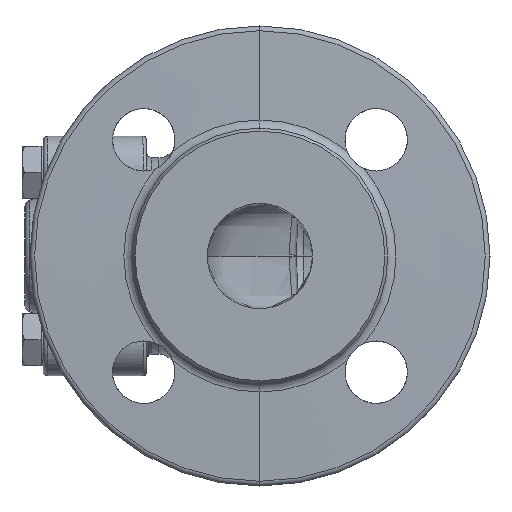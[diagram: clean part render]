
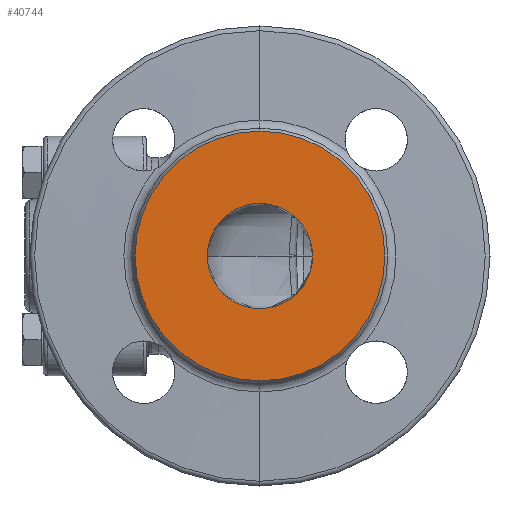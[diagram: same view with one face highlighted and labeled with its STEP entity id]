
A CAD part, left-side view. The second image highlights one B-rep face of the part: STEP entity #40744.
In plain terms, the highlighted planar face has unit normal (-1, 0, 0).
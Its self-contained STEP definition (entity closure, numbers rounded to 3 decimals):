
#71 = CARTESIAN_POINT ( 'NONE',  ( 0., 12.55, -9.928 ) ) ;
#1392 = CARTESIAN_POINT ( 'NONE',  ( 0., 1.322, -15.95 ) ) ;
#2097 = DIRECTION ( 'NONE',  ( 0., 0., 1. ) ) ;
#2267 = CARTESIAN_POINT ( 'NONE',  ( 0., 16., 0. ) ) ;
#4637 = EDGE_CURVE ( 'NONE', #56362, #83255, #29008, .T. ) ;
#6294 = CARTESIAN_POINT ( 'NONE',  ( 0., 0.659, -15.991 ) ) ;
#6712 = CARTESIAN_POINT ( 'NONE',  ( 0., -2.797, -15.763 ) ) ;
#6730 = CARTESIAN_POINT ( 'NONE',  ( 0., 12.061, 10.514 ) ) ;
#7602 = CARTESIAN_POINT ( 'NONE',  ( 0., 8.387, -13.96 ) ) ;
#8407 = ORIENTED_EDGE ( 'NONE', *, *, #4637, .T. ) ;
#9194 = CARTESIAN_POINT ( 'NONE',  ( 0., 0., 0. ) ) ;
#12988 = CARTESIAN_POINT ( 'NONE',  ( 0., 16., 0. ) ) ;
#13397 = CARTESIAN_POINT ( 'NONE',  ( 0., 12.26, -10.284 ) ) ;
#13696 = EDGE_LOOP ( 'NONE', ( #74738, #77046 ) ) ;
#13833 = CARTESIAN_POINT ( 'NONE',  ( 0., 5.348, -15.389 ) ) ;
#13848 = CARTESIAN_POINT ( 'NONE',  ( 0., -0.304, 16. ) ) ;
#14720 = CARTESIAN_POINT ( 'NONE',  ( 0., -0.919, -15.983 ) ) ;
#15447 = CARTESIAN_POINT ( 'NONE',  ( 0., -16., 0. ) ) ;
#16482 = CARTESIAN_POINT ( 'NONE',  ( 0., 15.765, -4.054 ) ) ;
#16669 = EDGE_CURVE ( 'NONE', #30461, #69591, #63225, .T. ) ;
#20066 = CARTESIAN_POINT ( 'NONE',  ( 0., 0.219, -16. ) ) ;
#20083 = CARTESIAN_POINT ( 'NONE',  ( 0., 15.765, 4.054 ) ) ;
#20510 = CARTESIAN_POINT ( 'NONE',  ( 0., 14.486, 7.273 ) ) ;
#20927 = CARTESIAN_POINT ( 'NONE',  ( 0., -9.095, -14.45 ) ) ;
#21308 = DIRECTION ( 'NONE',  ( -1., 0., 0. ) ) ;
#21370 = CARTESIAN_POINT ( 'NONE',  ( 0., -1.852, -15.902 ) ) ;
#24189 = EDGE_CURVE ( 'NONE', #69591, #30461, #62010, .T. ) ;
#26736 = CARTESIAN_POINT ( 'NONE',  ( 0., 10.552, 12.034 ) ) ;
#27174 = CARTESIAN_POINT ( 'NONE',  ( 0., 12.83, 9.564 ) ) ;
#27609 = CARTESIAN_POINT ( 'NONE',  ( 0., 7.952, 14.219 ) ) ;
#29008 =( BOUNDED_CURVE ( )  B_SPLINE_CURVE ( 3, ( #12988, #53816, #20083, #20510, #27174, #47598, #33418, #6730, #87515, #40098, #32992, #26736, #27609, #81714, #74651, #48470, #33849, #80857, #13848, #47168, #74217, #40518, #75538, #60052, #67977, #54251 ),
 .UNSPECIFIED., .F., .T. ) 
 B_SPLINE_CURVE_WITH_KNOTS ( ( 4, 1, 1, 1, 1, 1, 2, 1, 1, 1, 1, 1, 1, 1, 1, 2, 1, 1, 1, 1, 1, 4 ),
 ( 0., 0.067, 0.28, 0.293, 0.307, 0.32, 0.333, 0.35, 0.367, 0.383, 0.4, 0.613, 0.627, 0.64, 0.653, 0.667, 0.68, 0.693, 0.707, 0.72, 0.933, 1. ),
 .UNSPECIFIED. ) 
 CURVE ( )  GEOMETRIC_REPRESENTATION_ITEM ( )  RATIONAL_B_SPLINE_CURVE ( ( 1., 0.991, 0.962, 0.964, 0.986, 0.99, 0.995, 0.998, 0.997, 0.992, 0.984, 0.977, 0.949, 0.951, 0.981, 0.987, 0.993, 0.998, 0.992, 0.977, 0.957, 0.938, 0.837, 0.83, 0.961, 1. ) ) 
 REPRESENTATION_ITEM ( '' )  );
#30179 = CARTESIAN_POINT ( 'NONE',  ( 0., 0., 38. ) ) ;
#30461 = VERTEX_POINT ( 'NONE', #61472 ) ;
#30684 = AXIS2_PLACEMENT_3D ( 'NONE', #71164, #49888, #44129 ) ;
#31130 = ORIENTED_EDGE ( 'NONE', *, *, #41363, .T. ) ;
#32992 = CARTESIAN_POINT ( 'NONE',  ( 0., 11.045, 11.582 ) ) ;
#33401 = CARTESIAN_POINT ( 'NONE',  ( 0., 1.987, -15.881 ) ) ;
#33418 = CARTESIAN_POINT ( 'NONE',  ( 0., 12.26, 10.284 ) ) ;
#33832 = CARTESIAN_POINT ( 'NONE',  ( 0., 11.606, -11.018 ) ) ;
#33849 = CARTESIAN_POINT ( 'NONE',  ( 0., 0.527, 15.994 ) ) ;
#40098 = CARTESIAN_POINT ( 'NONE',  ( 0., 11.516, 11.114 ) ) ;
#40501 = CARTESIAN_POINT ( 'NONE',  ( 0., -16., 0. ) ) ;
#40518 = CARTESIAN_POINT ( 'NONE',  ( 0., -2.797, 15.763 ) ) ;
#40744 = ADVANCED_FACE ( 'NONE', ( #57430, #84457 ), #56987, .T. ) ;
#41363 = EDGE_CURVE ( 'NONE', #83255, #56362, #61911, .T. ) ;
#41808 = CARTESIAN_POINT ( 'NONE',  ( 0., -0.304, -16. ) ) ;
#44129 = DIRECTION ( 'NONE',  ( 0., 0., 1. ) ) ;
#47149 = CARTESIAN_POINT ( 'NONE',  ( 0., 11.235, -11.396 ) ) ;
#47168 = CARTESIAN_POINT ( 'NONE',  ( 0., -0.919, 15.983 ) ) ;
#47598 = CARTESIAN_POINT ( 'NONE',  ( 0., 12.55, 9.928 ) ) ;
#48012 = CARTESIAN_POINT ( 'NONE',  ( 0., 11.844, -10.759 ) ) ;
#48470 = CARTESIAN_POINT ( 'NONE',  ( 0., 1.056, 15.968 ) ) ;
#49269 = CARTESIAN_POINT ( 'NONE',  ( 0., 0., 0. ) ) ;
#49888 = DIRECTION ( 'NONE',  ( -1., 0., 0. ) ) ;
#53816 = CARTESIAN_POINT ( 'NONE',  ( 0., 16., 0.765 ) ) ;
#54251 = CARTESIAN_POINT ( 'NONE',  ( 0., -16., 0. ) ) ;
#56362 = VERTEX_POINT ( 'NONE', #72683 ) ;
#56987 = PLANE ( 'NONE',  #30684 ) ;
#57430 = FACE_BOUND ( 'NONE', #74739, .T. ) ;
#60052 = CARTESIAN_POINT ( 'NONE',  ( 0., -14.92, 9.007 ) ) ;
#60458 = CARTESIAN_POINT ( 'NONE',  ( 0., 10.85, -11.764 ) ) ;
#61472 = CARTESIAN_POINT ( 'NONE',  ( 0., 0., -38. ) ) ;
#61911 =( BOUNDED_CURVE ( )  B_SPLINE_CURVE ( 3, ( #40501, #82136, #62204, #20927, #6712, #21370, #14720, #41808, #20066, #6294, #1392, #33401, #13833, #7602, #60458, #47149, #33832, #48012, #74200, #13397, #71, #76846, #77730, #16482, #69270, #2267 ),
 .UNSPECIFIED., .F., .T. ) 
 B_SPLINE_CURVE_WITH_KNOTS ( ( 4, 1, 1, 1, 1, 1, 2, 1, 1, 1, 1, 1, 1, 1, 1, 2, 1, 1, 1, 1, 1, 4 ),
 ( 0., 0.067, 0.28, 0.293, 0.307, 0.32, 0.333, 0.35, 0.367, 0.383, 0.4, 0.613, 0.627, 0.64, 0.653, 0.667, 0.68, 0.693, 0.707, 0.72, 0.933, 1. ),
 .UNSPECIFIED. ) 
 CURVE ( )  GEOMETRIC_REPRESENTATION_ITEM ( )  RATIONAL_B_SPLINE_CURVE ( ( 1., 0.961, 0.83, 0.837, 0.938, 0.957, 0.977, 0.992, 0.997, 0.992, 0.984, 0.977, 0.949, 0.951, 0.981, 0.987, 0.993, 0.998, 0.998, 0.995, 0.99, 0.986, 0.964, 0.962, 0.991, 1. ) ) 
 REPRESENTATION_ITEM ( '' )  );
#62010 = CIRCLE ( 'NONE', #73361, 38. ) ;
#62204 = CARTESIAN_POINT ( 'NONE',  ( 0., -14.92, -9.007 ) ) ;
#62912 = DIRECTION ( 'NONE',  ( -1., 0., 0. ) ) ;
#63225 = CIRCLE ( 'NONE', #83011, 38. ) ;
#67977 = CARTESIAN_POINT ( 'NONE',  ( 0., -16., 1.57 ) ) ;
#69270 = CARTESIAN_POINT ( 'NONE',  ( 0., 16., -0.765 ) ) ;
#69591 = VERTEX_POINT ( 'NONE', #30179 ) ;
#71164 = CARTESIAN_POINT ( 'NONE',  ( 0., 0., 0. ) ) ;
#72683 = CARTESIAN_POINT ( 'NONE',  ( 0., 16., 0. ) ) ;
#73361 = AXIS2_PLACEMENT_3D ( 'NONE', #9194, #62912, #2097 ) ;
#74200 = CARTESIAN_POINT ( 'NONE',  ( 0., 12.061, -10.514 ) ) ;
#74217 = CARTESIAN_POINT ( 'NONE',  ( 0., -1.852, 15.902 ) ) ;
#74651 = CARTESIAN_POINT ( 'NONE',  ( 0., 1.587, 15.924 ) ) ;
#74738 = ORIENTED_EDGE ( 'NONE', *, *, #16669, .T. ) ;
#74739 = EDGE_LOOP ( 'NONE', ( #31130, #8407 ) ) ;
#75538 = CARTESIAN_POINT ( 'NONE',  ( 0., -9.095, 14.45 ) ) ;
#76335 = DIRECTION ( 'NONE',  ( 0., 0., 1. ) ) ;
#76846 = CARTESIAN_POINT ( 'NONE',  ( 0., 12.83, -9.564 ) ) ;
#77046 = ORIENTED_EDGE ( 'NONE', *, *, #24189, .T. ) ;
#77730 = CARTESIAN_POINT ( 'NONE',  ( 0., 14.486, -7.273 ) ) ;
#80857 = CARTESIAN_POINT ( 'NONE',  ( 0., 0.175, 16. ) ) ;
#81714 = CARTESIAN_POINT ( 'NONE',  ( 0., 4.865, 15.542 ) ) ;
#82136 = CARTESIAN_POINT ( 'NONE',  ( 0., -16., -1.57 ) ) ;
#83011 = AXIS2_PLACEMENT_3D ( 'NONE', #49269, #21308, #76335 ) ;
#83255 = VERTEX_POINT ( 'NONE', #15447 ) ;
#84457 = FACE_OUTER_BOUND ( 'NONE', #13696, .T. ) ;
#87515 = CARTESIAN_POINT ( 'NONE',  ( 0., 11.815, 10.791 ) ) ;
